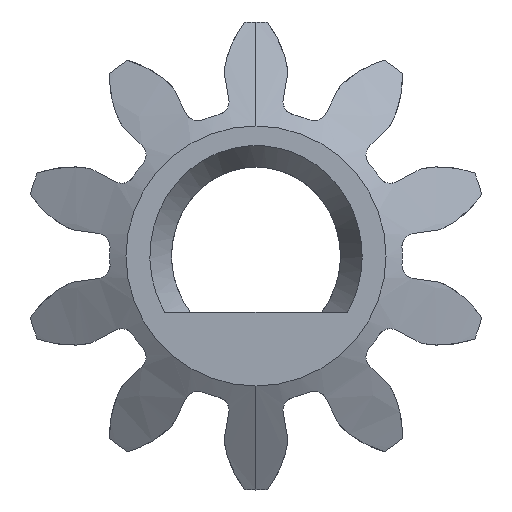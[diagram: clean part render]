
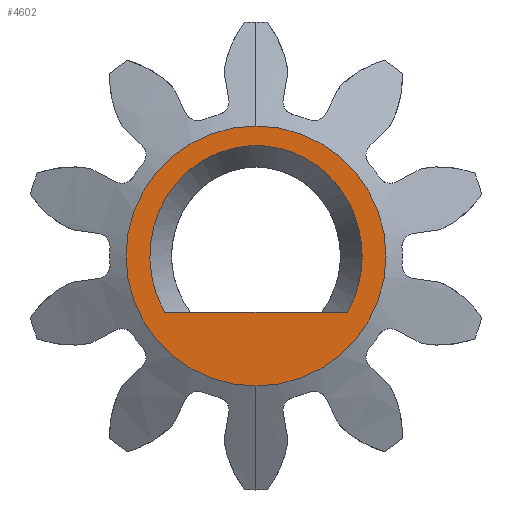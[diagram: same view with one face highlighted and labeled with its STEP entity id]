
A CAD part, front view. The second image highlights one B-rep face of the part: STEP entity #4602.
In plain terms, the highlighted planar face has unit normal (0, -1, 0).
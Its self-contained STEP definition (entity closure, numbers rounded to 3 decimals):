
#27 = CARTESIAN_POINT ( 'NONE',  ( 0.459, 0., -0.181 ) ) ;
#336 = CARTESIAN_POINT ( 'NONE',  ( 0.382, 0., 0.323 ) ) ;
#476 = DIRECTION ( 'NONE',  ( 0., 1., 0. ) ) ;
#704 = CARTESIAN_POINT ( 'NONE',  ( 0.086, 0., 0.51 ) ) ;
#738 = CARTESIAN_POINT ( 'NONE',  ( -0.442, 0., -0.224 ) ) ;
#778 = CARTESIAN_POINT ( 'NONE',  ( 0.178, 0., 0.483 ) ) ;
#1004 = ORIENTED_EDGE ( 'NONE', *, *, #1410, .T. ) ;
#1033 = CARTESIAN_POINT ( 'NONE',  ( 0., 0., -0.6 ) ) ;
#1036 = VECTOR ( 'NONE', #5317, 1000. ) ;
#1060 = VERTEX_POINT ( 'NONE', #1362 ) ;
#1142 = CARTESIAN_POINT ( 'NONE',  ( 0.483, 0., -0.097 ) ) ;
#1173 = AXIS2_PLACEMENT_3D ( 'NONE', #4482, #1891, #4448 ) ;
#1177 = CARTESIAN_POINT ( 'NONE',  ( 0., 0., 0. ) ) ;
#1362 = CARTESIAN_POINT ( 'NONE',  ( 0., 0., 0.6 ) ) ;
#1410 = EDGE_CURVE ( 'NONE', #1060, #1411, #2659, .T. ) ;
#1411 = VERTEX_POINT ( 'NONE', #1033 ) ;
#1412 = CARTESIAN_POINT ( 'NONE',  ( 0.422, 0., -0.26 ) ) ;
#1634 = CARTESIAN_POINT ( 'NONE',  ( -0.409, 0., 0.284 ) ) ;
#1650 = CARTESIAN_POINT ( 'NONE',  ( 0.422, 0., -0.26 ) ) ;
#1709 = CARTESIAN_POINT ( 'NONE',  ( 0.433, 0., -0.24 ) ) ;
#1772 = ORIENTED_EDGE ( 'NONE', *, *, #1927, .T. ) ;
#1844 = ORIENTED_EDGE ( 'NONE', *, *, #2516, .T. ) ;
#1891 = DIRECTION ( 'NONE',  ( 0., -1., 0. ) ) ;
#1927 = EDGE_CURVE ( 'NONE', #2279, #2804, #3203, .T. ) ;
#1977 = CARTESIAN_POINT ( 'NONE',  ( -0.489, 0., -0.05 ) ) ;
#1993 = CARTESIAN_POINT ( 'NONE',  ( -0.086, 0., 0.51 ) ) ;
#2010 = DIRECTION ( 'NONE',  ( 0., 0., -1. ) ) ;
#2015 = CARTESIAN_POINT ( 'NONE',  ( -0.483, 0., -0.097 ) ) ;
#2157 = CARTESIAN_POINT ( 'NONE',  ( 0., 0., 0. ) ) ;
#2279 = VERTEX_POINT ( 'NONE', #4029 ) ;
#2390 = CARTESIAN_POINT ( 'NONE',  ( -0.422, 0., -0.26 ) ) ;
#2465 = CARTESIAN_POINT ( 'NONE',  ( -0.469, 0., 0.171 ) ) ;
#2516 = EDGE_CURVE ( 'NONE', #2804, #2279, #4420, .T. ) ;
#2659 = CIRCLE ( 'NONE', #1173, 0.6 ) ;
#2804 = VERTEX_POINT ( 'NONE', #1412 ) ;
#2850 = CARTESIAN_POINT ( 'NONE',  ( -0.324, 0., 0.385 ) ) ;
#2883 = EDGE_LOOP ( 'NONE', ( #1004, #3321 ) ) ;
#2884 = CARTESIAN_POINT ( 'NONE',  ( 0.287, 0., 0.415 ) ) ;
#2950 = PLANE ( 'NONE',  #3768 ) ;
#2960 = EDGE_LOOP ( 'NONE', ( #1772, #1844 ) ) ;
#3035 = FACE_OUTER_BOUND ( 'NONE', #2883, .T. ) ;
#3203 = B_SPLINE_CURVE_WITH_KNOTS ( 'NONE', 3,
 ( #2390, #738, #4166, #2015, #1977, #4942, #2465, #1634, #5365, #2850, #4552, #4582, #1993, #704, #778, #2884, #4095, #336, #5421, #5349, #3683, #4529, #1142, #4108, #27, #4269, #1709, #1650 ),
 .UNSPECIFIED., .F., .F.,
 ( 4, 2, 2, 2, 2, 2, 2, 2, 2, 2, 2, 2, 2, 4 ),
 ( 0., 0.062, 0.125, 0.25, 0.313, 0.375, 0.5, 0.625, 0.688, 0.75, 0.875, 0.938, 0.969, 1. ),
 .UNSPECIFIED. ) ;
#3292 = CIRCLE ( 'NONE', #4647, 0.6 ) ;
#3321 = ORIENTED_EDGE ( 'NONE', *, *, #3998, .T. ) ;
#3650 = CARTESIAN_POINT ( 'NONE',  ( 0.302, 0., -0.26 ) ) ;
#3683 = CARTESIAN_POINT ( 'NONE',  ( 0.491, 0., 0.078 ) ) ;
#3768 = AXIS2_PLACEMENT_3D ( 'NONE', #2157, #476, #5071 ) ;
#3998 = EDGE_CURVE ( 'NONE', #1411, #1060, #3292, .T. ) ;
#4029 = CARTESIAN_POINT ( 'NONE',  ( -0.422, 0., -0.26 ) ) ;
#4095 = CARTESIAN_POINT ( 'NONE',  ( 0.324, 0., 0.385 ) ) ;
#4108 = CARTESIAN_POINT ( 'NONE',  ( 0.466, 0., -0.159 ) ) ;
#4142 = DIRECTION ( 'NONE',  ( 0., -1., 0. ) ) ;
#4166 = CARTESIAN_POINT ( 'NONE',  ( -0.461, 0., -0.179 ) ) ;
#4269 = CARTESIAN_POINT ( 'NONE',  ( 0.442, 0., -0.22 ) ) ;
#4420 = LINE ( 'NONE', #3650, #1036 ) ;
#4448 = DIRECTION ( 'NONE',  ( 0., 0., -1. ) ) ;
#4482 = CARTESIAN_POINT ( 'NONE',  ( 0., 0., 0. ) ) ;
#4529 = CARTESIAN_POINT ( 'NONE',  ( 0.489, 0., -0.051 ) ) ;
#4552 = CARTESIAN_POINT ( 'NONE',  ( -0.288, 0., 0.415 ) ) ;
#4582 = CARTESIAN_POINT ( 'NONE',  ( -0.179, 0., 0.483 ) ) ;
#4602 = ADVANCED_FACE ( 'NONE', ( #5269, #3035 ), #2950, .F. ) ;
#4647 = AXIS2_PLACEMENT_3D ( 'NONE', #1177, #4142, #2010 ) ;
#4942 = CARTESIAN_POINT ( 'NONE',  ( -0.491, 0., 0.078 ) ) ;
#5071 = DIRECTION ( 'NONE',  ( 0., 0., 1. ) ) ;
#5269 = FACE_BOUND ( 'NONE', #2960, .T. ) ;
#5317 = DIRECTION ( 'NONE',  ( -1., 0., 0. ) ) ;
#5349 = CARTESIAN_POINT ( 'NONE',  ( 0.469, 0., 0.171 ) ) ;
#5365 = CARTESIAN_POINT ( 'NONE',  ( -0.382, 0., 0.323 ) ) ;
#5421 = CARTESIAN_POINT ( 'NONE',  ( 0.409, 0., 0.284 ) ) ;
